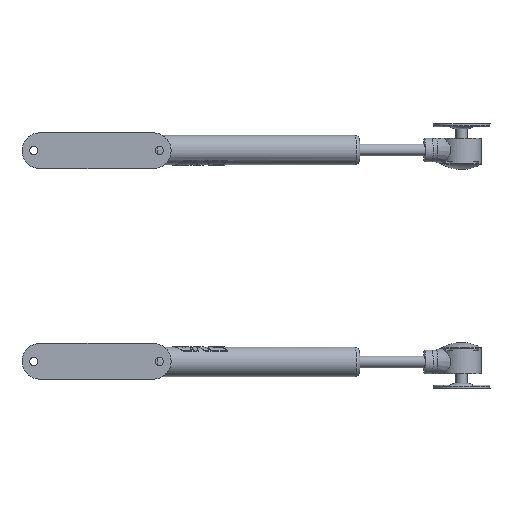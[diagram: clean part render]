
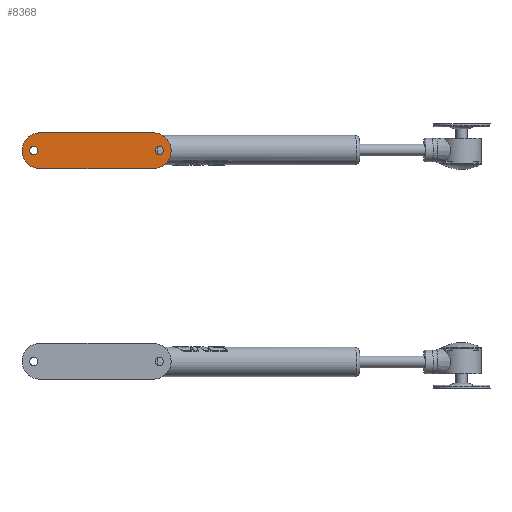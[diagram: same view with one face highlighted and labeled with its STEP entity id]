
A CAD part, front view. The second image highlights one B-rep face of the part: STEP entity #8368.
In plain terms, the highlighted planar face has unit normal (0, -1, 0).
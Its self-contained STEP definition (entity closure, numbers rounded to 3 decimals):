
#193=FACE_BOUND('',#1239,.T.);
#194=FACE_BOUND('',#1240,.T.);
#395=PLANE('',#9052);
#718=FACE_OUTER_BOUND('',#1238,.T.);
#1238=EDGE_LOOP('',(#6391,#6392,#6393,#6394,#6395,#6396,#6397,#6398));
#1239=EDGE_LOOP('',(#6399));
#1240=EDGE_LOOP('',(#6400));
#1685=CIRCLE('',#8989,2.1);
#1688=CIRCLE('',#8994,2.1);
#1711=CIRCLE('',#9050,9.);
#1712=CIRCLE('',#9053,9.);
#1713=CIRCLE('',#9054,9.);
#1714=CIRCLE('',#9055,9.);
#2406=LINE('',#14454,#3042);
#2408=LINE('',#14458,#3044);
#2409=LINE('',#14462,#3045);
#2410=LINE('',#14466,#3046);
#3042=VECTOR('',#10595,10.);
#3044=VECTOR('',#10599,10.);
#3045=VECTOR('',#10602,10.);
#3046=VECTOR('',#10605,10.);
#3682=VERTEX_POINT('',#14243);
#3685=VERTEX_POINT('',#14251);
#3752=VERTEX_POINT('',#14447);
#3753=VERTEX_POINT('',#14449);
#3754=VERTEX_POINT('',#14453);
#3755=VERTEX_POINT('',#14457);
#3756=VERTEX_POINT('',#14459);
#3757=VERTEX_POINT('',#14461);
#3758=VERTEX_POINT('',#14463);
#3759=VERTEX_POINT('',#14465);
#4617=EDGE_CURVE('',#3682,#3682,#1685,.T.);
#4620=EDGE_CURVE('',#3685,#3685,#1688,.T.);
#4717=EDGE_CURVE('',#3752,#3753,#1711,.T.);
#4719=EDGE_CURVE('',#3753,#3754,#2406,.T.);
#4721=EDGE_CURVE('',#3755,#3752,#2408,.T.);
#4722=EDGE_CURVE('',#3756,#3755,#1712,.T.);
#4723=EDGE_CURVE('',#3756,#3757,#2409,.T.);
#4724=EDGE_CURVE('',#3758,#3757,#1713,.T.);
#4725=EDGE_CURVE('',#3759,#3758,#2410,.T.);
#4726=EDGE_CURVE('',#3754,#3759,#1714,.T.);
#6391=ORIENTED_EDGE('',*,*,#4717,.F.);
#6392=ORIENTED_EDGE('',*,*,#4721,.F.);
#6393=ORIENTED_EDGE('',*,*,#4722,.F.);
#6394=ORIENTED_EDGE('',*,*,#4723,.T.);
#6395=ORIENTED_EDGE('',*,*,#4724,.F.);
#6396=ORIENTED_EDGE('',*,*,#4725,.F.);
#6397=ORIENTED_EDGE('',*,*,#4726,.F.);
#6398=ORIENTED_EDGE('',*,*,#4719,.F.);
#6399=ORIENTED_EDGE('',*,*,#4617,.T.);
#6400=ORIENTED_EDGE('',*,*,#4620,.T.);
#8368=ADVANCED_FACE('',(#718,#193,#194),#395,.T.);
#8989=AXIS2_PLACEMENT_3D('',#14244,#10394,#10395);
#8994=AXIS2_PLACEMENT_3D('',#14252,#10404,#10405);
#9050=AXIS2_PLACEMENT_3D('',#14450,#10590,#10591);
#9052=AXIS2_PLACEMENT_3D('',#14456,#10597,#10598);
#9053=AXIS2_PLACEMENT_3D('',#14460,#10600,#10601);
#9054=AXIS2_PLACEMENT_3D('',#14464,#10603,#10604);
#9055=AXIS2_PLACEMENT_3D('',#14467,#10606,#10607);
#10394=DIRECTION('center_axis',(0.,1.,0.));
#10395=DIRECTION('ref_axis',(1.,0.,0.));
#10404=DIRECTION('center_axis',(0.,1.,0.));
#10405=DIRECTION('ref_axis',(1.,0.,0.));
#10590=DIRECTION('center_axis',(0.,1.,0.));
#10591=DIRECTION('ref_axis',(-0.707,0.,-0.707));
#10595=DIRECTION('',(0.,0.,1.));
#10597=DIRECTION('center_axis',(0.,-1.,0.));
#10598=DIRECTION('ref_axis',(1.,0.,0.));
#10599=DIRECTION('',(-1.,0.,0.));
#10600=DIRECTION('center_axis',(0.,1.,0.));
#10601=DIRECTION('ref_axis',(0.707,0.,-0.707));
#10602=DIRECTION('',(0.,0.,1.));
#10603=DIRECTION('center_axis',(0.,1.,0.));
#10604=DIRECTION('ref_axis',(0.707,0.,0.707));
#10605=DIRECTION('',(1.,0.,0.));
#10606=DIRECTION('center_axis',(0.,1.,0.));
#10607=DIRECTION('ref_axis',(-0.707,0.,0.707));
#14243=CARTESIAN_POINT('',(-8.755,-11.636,9.2));
#14244=CARTESIAN_POINT('Origin',(-6.655,-11.636,9.2));
#14251=CARTESIAN_POINT('',(55.245,-11.636,9.2));
#14252=CARTESIAN_POINT('Origin',(57.345,-11.636,9.2));
#14447=CARTESIAN_POINT('',(-3.655,-11.636,0.));
#14449=CARTESIAN_POINT('',(-12.655,-11.636,9.));
#14450=CARTESIAN_POINT('Origin',(-3.655,-11.636,9.));
#14453=CARTESIAN_POINT('',(-12.655,-11.636,9.2));
#14454=CARTESIAN_POINT('',(-12.655,-11.636,0.));
#14456=CARTESIAN_POINT('Origin',(-12.655,-11.636,0.));
#14457=CARTESIAN_POINT('',(54.345,-11.636,0.));
#14458=CARTESIAN_POINT('',(63.345,-11.636,0.));
#14459=CARTESIAN_POINT('',(63.345,-11.636,9.));
#14460=CARTESIAN_POINT('Origin',(54.345,-11.636,9.));
#14461=CARTESIAN_POINT('',(63.345,-11.636,9.2));
#14462=CARTESIAN_POINT('',(63.345,-11.636,0.));
#14463=CARTESIAN_POINT('',(54.345,-11.636,18.2));
#14464=CARTESIAN_POINT('Origin',(54.345,-11.636,9.2));
#14465=CARTESIAN_POINT('',(-3.655,-11.636,18.2));
#14466=CARTESIAN_POINT('',(63.345,-11.636,18.2));
#14467=CARTESIAN_POINT('Origin',(-3.655,-11.636,9.2));
